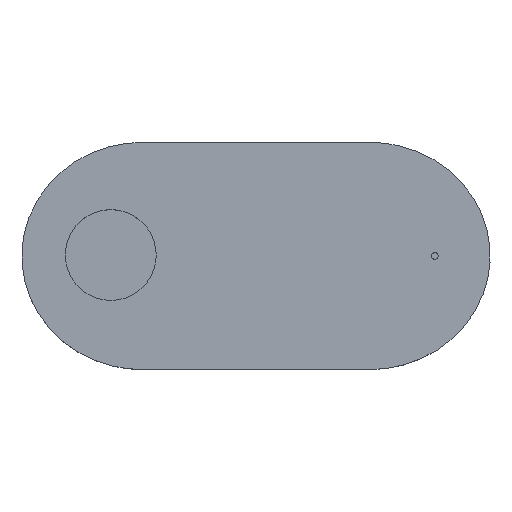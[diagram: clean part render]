
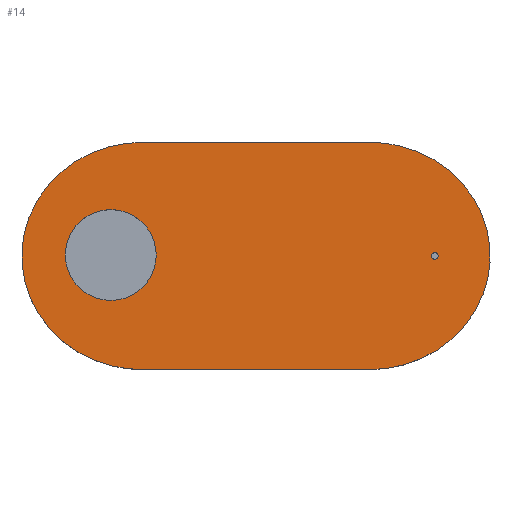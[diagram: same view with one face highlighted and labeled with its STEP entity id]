
A CAD part, top view. The second image highlights one B-rep face of the part: STEP entity #14.
In plain terms, the highlighted planar face has unit normal (0, 0, 1).
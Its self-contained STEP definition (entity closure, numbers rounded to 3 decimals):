
#14=ADVANCED_FACE('',(#26,#24,#25),#136,.T.);
#24=FACE_BOUND('',#37,.T.);
#25=FACE_BOUND('',#38,.T.);
#26=FACE_OUTER_BOUND('',#36,.T.);
#36=EDGE_LOOP('',(#48,#49,#50,#51));
#37=EDGE_LOOP('',(#52));
#38=EDGE_LOOP('',(#53));
#48=ORIENTED_EDGE('',*,*,#86,.T.);
#49=ORIENTED_EDGE('',*,*,#84,.T.);
#50=ORIENTED_EDGE('',*,*,#92,.T.);
#51=ORIENTED_EDGE('',*,*,#85,.T.);
#52=ORIENTED_EDGE('',*,*,#96,.T.);
#53=ORIENTED_EDGE('',*,*,#100,.T.);
#84=EDGE_CURVE('',#121,#122,#110,.T.);
#85=EDGE_CURVE('',#123,#120,#111,.T.);
#86=EDGE_CURVE('',#120,#121,#106,.T.);
#92=EDGE_CURVE('',#122,#123,#108,.T.);
#96=EDGE_CURVE('',#124,#124,#102,.T.);
#100=EDGE_CURVE('',#131,#131,#105,.T.);
#102=CIRCLE('',#238,20.);
#105=CIRCLE('',#241,1.5);
#106=(
BOUNDED_CURVE()
B_SPLINE_CURVE(2,(#308,#309,#310,#311,#312),.UNSPECIFIED.,.F.,.F.)
B_SPLINE_CURVE_WITH_KNOTS((3,2,3),(723.209,802.533,881.857),
 .UNSPECIFIED.)
CURVE()
GEOMETRIC_REPRESENTATION_ITEM()
RATIONAL_B_SPLINE_CURVE((1.,0.707,1.,0.707,1.))
REPRESENTATION_ITEM('')
);
#108=(
BOUNDED_CURVE()
B_SPLINE_CURVE(2,(#326,#327,#328,#329,#330),.UNSPECIFIED.,.F.,.F.)
B_SPLINE_CURVE_WITH_KNOTS((3,2,3),(986.911,1066.235,1145.559),
 .UNSPECIFIED.)
CURVE()
GEOMETRIC_REPRESENTATION_ITEM()
RATIONAL_B_SPLINE_CURVE((1.,0.707,1.,0.707,1.))
REPRESENTATION_ITEM('')
);
#110=B_SPLINE_CURVE_WITH_KNOTS('',1,(#304,#305),.UNSPECIFIED.,.F.,.F.,(2,
2),(0.,100.),.UNSPECIFIED.);
#111=B_SPLINE_CURVE_WITH_KNOTS('',1,(#306,#307),.UNSPECIFIED.,.F.,.F.,(2,
2),(0.,100.),.UNSPECIFIED.);
#120=VERTEX_POINT('',#292);
#121=VERTEX_POINT('',#293);
#122=VERTEX_POINT('',#294);
#123=VERTEX_POINT('',#295);
#124=VERTEX_POINT('',#296);
#131=VERTEX_POINT('',#303);
#136=PLANE('',#230);
#230=AXIS2_PLACEMENT_3D('',#264,#245,$);
#238=AXIS2_PLACEMENT_3D($,#340,#253,#254);
#241=AXIS2_PLACEMENT_3D($,#345,#259,#260);
#245=DIRECTION('',(0.,0.,1.));
#253=DIRECTION('',(0.,0.,-1.));
#254=DIRECTION('',(1.,0.,0.));
#259=DIRECTION('',(0.,0.,-1.));
#260=DIRECTION('',(1.,0.,0.));
#264=CARTESIAN_POINT('',(-1129.861,1146.538,0.));
#292=CARTESIAN_POINT('',(-1056.07,1256.658,0.));
#293=CARTESIAN_POINT('',(-1056.07,1156.658,0.));
#294=CARTESIAN_POINT('',(-956.07,1156.658,0.));
#295=CARTESIAN_POINT('',(-956.07,1256.658,0.));
#296=CARTESIAN_POINT('',(-1049.983,1207.061,0.));
#303=CARTESIAN_POINT('',(-925.903,1206.658,0.));
#304=CARTESIAN_POINT('',(-1056.07,1156.658,0.));
#305=CARTESIAN_POINT('',(-956.07,1156.658,0.));
#306=CARTESIAN_POINT('',(-956.07,1256.658,0.));
#307=CARTESIAN_POINT('',(-1056.07,1256.658,0.));
#308=CARTESIAN_POINT('',(-1056.07,1256.658,0.));
#309=CARTESIAN_POINT('',(-1109.129,1256.658,0.));
#310=CARTESIAN_POINT('',(-1109.129,1206.658,0.));
#311=CARTESIAN_POINT('',(-1109.129,1156.658,0.));
#312=CARTESIAN_POINT('',(-1056.07,1156.658,0.));
#326=CARTESIAN_POINT('',(-956.07,1156.658,0.));
#327=CARTESIAN_POINT('',(-903.011,1156.658,0.));
#328=CARTESIAN_POINT('',(-903.011,1206.658,0.));
#329=CARTESIAN_POINT('',(-903.011,1256.658,0.));
#330=CARTESIAN_POINT('',(-956.07,1256.658,0.));
#340=CARTESIAN_POINT('',(-1069.983,1207.061,0.));
#345=CARTESIAN_POINT('',(-927.403,1206.658,0.));
